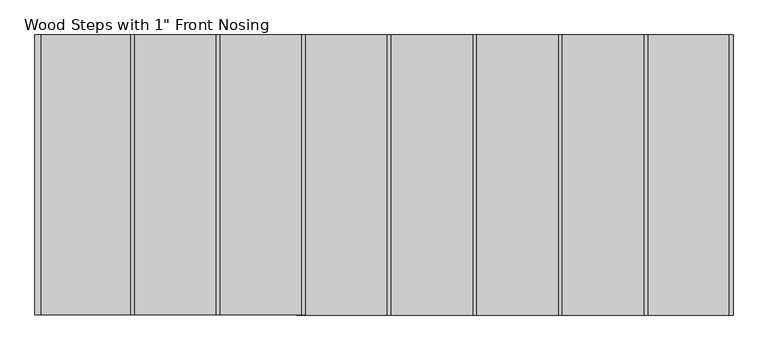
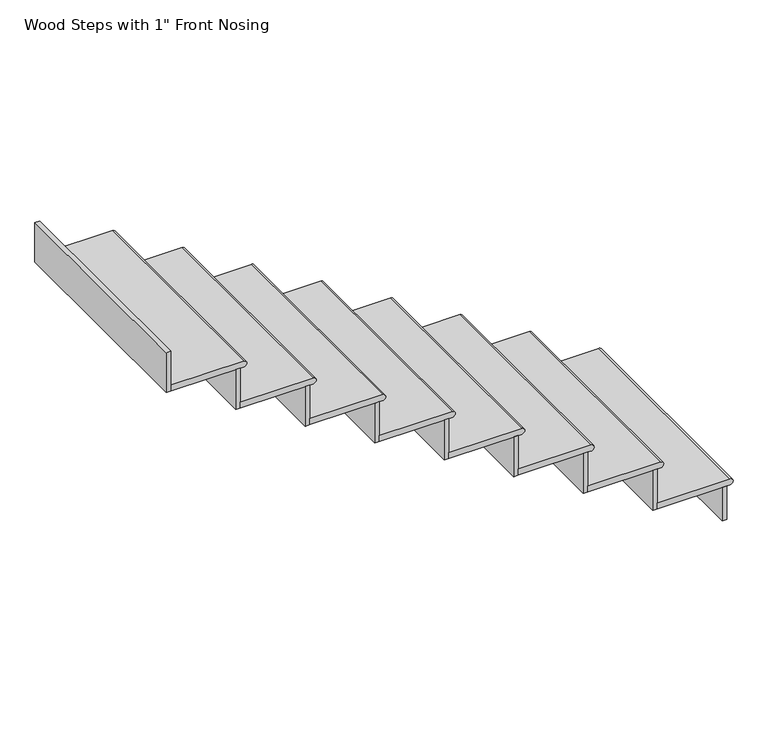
"""IFC4 building model written with IfcOpenShell, lengths in millimetres: stair flight geometry."""

from ifc_helpers import new_model, si_unit, frame, origin, place, context, project, spatial, circle_curve, faceted_brep, source, transform, mapped, element, save
from ifc_brep_helpers import plane_surface, cylinder_surface, advanced_brep


def stair_flight_912a77d6(model_context):
    return source(origin(), model_context, "Body", "SolidModel", [
        advanced_brep(
        [(10556.583999, -2157.718869, 143.9333333), (10556.583999, -2157.718869, 169.3333333), (10556.583999, -3072.118869, 169.3333333), (10556.583999, -3072.118869, 143.9333333), (10264.483999, -3072.118869, 169.3333333), (10264.483999, -2157.718869, 169.3333333), (10264.483999, -3072.118869, 143.9333333), (10264.483999, -2157.718869, 143.9333333)],
        [
            (0, 1, circle_curve(frame((10556.583999, -2157.718869, 156.6333333), z_axis=(0.0, -1.0, 0.0), x_axis=(-1.0, 0.0, 0.0)), 12.7)),
            (1, 2),
            (2, 3, circle_curve(frame((10556.583999, -3072.118869, 156.6333333), z_axis=(0.0, 1.0, 0.0), x_axis=(-1.0, 0.0, 0.0)), 12.7)),
            (3, 0),
            (4, 2),
            (1, 5),
            (5, 4),
            (3, 6),
            (6, 7),
            (7, 0),
            (4, 6),
            (7, 5),
        ],
        [
            cylinder_surface(frame((10556.583999, -2157.718869, 156.6333333), z_axis=(0.0, 1.0, 0.0), x_axis=(-1.0, 0.0, 0.0)), 12.7),
            plane_surface(frame((10569.283999, -3072.118869, 169.3333333), z_axis=(0.0, 0.0, 1.0), x_axis=(1.0, 0.0, 0.0))),
            plane_surface(frame((10569.283999, -3072.118869, 143.9333333), z_axis=(0.0, 0.0, -1.0), x_axis=(-1.0, 0.0, 0.0))),
            plane_surface(frame((10264.483999, -3072.118869, 169.3333333), z_axis=(0.0, -1.0, 0.0), x_axis=(0.0, 0.0, -1.0))),
            plane_surface(frame((10556.583999, -2157.718869, 169.3333333), z_axis=(0.0, 1.0, 0.0), x_axis=(0.0, 0.0, -1.0))),
            plane_surface(frame((10264.483999, -2157.718869, 169.3333333), z_axis=(-1.0, 0.0, 0.0), x_axis=(0.0, 0.0, -1.0))),
        ],
        [
            (0, [[1, 2, 3, 4]]),
            (1, [[5, -2, 6, 7]]),
            (2, [[8, 9, 10, -4]]),
            (3, [[-5, 11, -8, -3]]),
            (4, [[-6, -1, -10, 12]]),
            (5, [[-7, -12, -9, -11]]),
        ],
    ),
        faceted_brep([(10543.883999, -2157.718869, 143.9333333), (10543.883999, -2157.718869, 0.0), (10524.833999, -2157.718869, 0.0), (10524.833999, -2157.718869, 143.9333333), (10543.883999, -3072.118869, 143.9333333), (10524.833999, -3072.118869, 143.9333333), (10524.833999, -3072.118869, 0.0), (10543.883999, -3072.118869, 0.0)], [[[0, 1, 2, 3]], [[4, 5, 6, 7]], [[1, 0, 4, 7]], [[2, 1, 7, 6]], [[3, 2, 6, 5]], [[0, 3, 5, 4]]]),
        faceted_brep([(10264.483999, -2157.718869, 313.2666667), (10264.483999, -2157.718869, 143.9333333), (10245.433999, -2157.718869, 143.9333333), (10245.433999, -2157.718869, 313.2666667), (10264.483999, -3072.118869, 313.2666667), (10245.433999, -3072.118869, 313.2666667), (10245.433999, -3072.118869, 143.9333333), (10264.483999, -3072.118869, 143.9333333)], [[[0, 1, 2, 3]], [[4, 5, 6, 7]], [[1, 0, 4, 7]], [[2, 1, 7, 6]], [[3, 2, 6, 5]], [[0, 3, 5, 4]]]),
        advanced_brep(
        [(9985.083999, -3072.118869, 338.6666667), (10277.183999, -3072.118869, 338.6666667), (10277.183999, -2157.718869, 338.6666667), (9985.083999, -2157.718869, 338.6666667), (10277.183999, -3072.118869, 313.2666667), (9985.083999, -3072.118869, 313.2666667), (9985.083999, -2157.718869, 313.2666667), (10277.183999, -2157.718869, 313.2666667)],
        [
            (0, 1),
            (1, 2),
            (2, 3),
            (3, 0),
            (4, 5),
            (5, 6),
            (6, 7),
            (7, 4),
            (0, 5),
            (4, 1, circle_curve(frame((10277.183999, -3072.118869, 325.9666667), z_axis=(0.0, -1.0, 0.0), x_axis=(-1.0, 0.0, 0.0)), 12.7)),
            (2, 7, circle_curve(frame((10277.183999, -2157.718869, 325.9666667), z_axis=(0.0, 1.0, 0.0), x_axis=(-1.0, 0.0, 0.0)), 12.7)),
            (6, 3),
        ],
        [
            plane_surface(frame((10569.283999, -3072.118869, 338.6666667), z_axis=(0.0, 0.0, 1.0), x_axis=(1.0, 0.0, 0.0))),
            plane_surface(frame((10569.283999, -3072.118869, 313.2666667), z_axis=(0.0, 0.0, -1.0), x_axis=(-1.0, 0.0, 0.0))),
            plane_surface(frame((9985.083999, -3072.118869, 338.6666667), z_axis=(0.0, -1.0, 0.0), x_axis=(0.0, 0.0, -1.0))),
            plane_surface(frame((10277.183999, -2157.718869, 338.6666667), z_axis=(0.0, 1.0, 0.0), x_axis=(0.0, 0.0, -1.0))),
            plane_surface(frame((9985.083999, -2157.718869, 338.6666667), z_axis=(-1.0, 0.0, 0.0), x_axis=(0.0, 0.0, -1.0))),
            cylinder_surface(frame((10277.183999, -2157.718869, 325.9666667), z_axis=(0.0, 1.0, 0.0), x_axis=(-1.0, 0.0, 0.0)), 12.7),
        ],
        [
            (0, [[1, 2, 3, 4]]),
            (1, [[5, 6, 7, 8]]),
            (2, [[-1, 9, -5, 10]]),
            (3, [[-3, 11, -7, 12]]),
            (4, [[-4, -12, -6, -9]]),
            (5, [[-11, -2, -10, -8]]),
        ],
    ),
        faceted_brep([(9985.083999, -2157.718869, 482.6), (9985.083999, -2157.718869, 313.2666667), (9966.033999, -2157.718869, 313.2666667), (9966.033999, -2157.718869, 482.6), (9985.083999, -3072.118869, 482.6), (9966.033999, -3072.118869, 482.6), (9966.033999, -3072.118869, 313.2666667), (9985.083999, -3072.118869, 313.2666667)], [[[0, 1, 2, 3]], [[4, 5, 6, 7]], [[1, 0, 4, 7]], [[2, 1, 7, 6]], [[3, 2, 6, 5]], [[0, 3, 5, 4]]]),
        advanced_brep(
        [(9705.683999, -3072.118869, 508.0), (9997.783999, -3072.118869, 508.0), (9997.783999, -2157.718869, 508.0), (9705.683999, -2157.718869, 508.0), (9997.783999, -3072.118869, 482.6), (9705.683999, -3072.118869, 482.6), (9705.683999, -2157.718869, 482.6), (9997.783999, -2157.718869, 482.6)],
        [
            (0, 1),
            (1, 2),
            (2, 3),
            (3, 0),
            (4, 5),
            (5, 6),
            (6, 7),
            (7, 4),
            (0, 5),
            (4, 1, circle_curve(frame((9997.783999, -3072.118869, 495.3), z_axis=(0.0, -1.0, 0.0), x_axis=(-1.0, 0.0, 0.0)), 12.7)),
            (2, 7, circle_curve(frame((9997.783999, -2157.718869, 495.3), z_axis=(0.0, 1.0, 0.0), x_axis=(-1.0, 0.0, 0.0)), 12.7)),
            (6, 3),
        ],
        [
            plane_surface(frame((10289.883999, -3072.118869, 508.0), z_axis=(0.0, 0.0, 1.0), x_axis=(1.0, 0.0, 0.0))),
            plane_surface(frame((10289.883999, -3072.118869, 482.6), z_axis=(0.0, 0.0, -1.0), x_axis=(-1.0, 0.0, 0.0))),
            plane_surface(frame((9705.683999, -3072.118869, 508.0), z_axis=(0.0, -1.0, 0.0), x_axis=(0.0, 0.0, -1.0))),
            plane_surface(frame((9997.783999, -2157.718869, 508.0), z_axis=(0.0, 1.0, 0.0), x_axis=(0.0, 0.0, -1.0))),
            plane_surface(frame((9705.683999, -2157.718869, 508.0), z_axis=(-1.0, 0.0, 0.0), x_axis=(0.0, 0.0, -1.0))),
            cylinder_surface(frame((9997.783999, -2157.718869, 495.3), z_axis=(0.0, 1.0, 0.0), x_axis=(-1.0, 0.0, 0.0)), 12.7),
        ],
        [
            (0, [[1, 2, 3, 4]]),
            (1, [[5, 6, 7, 8]]),
            (2, [[-1, 9, -5, 10]]),
            (3, [[-3, 11, -7, 12]]),
            (4, [[-4, -12, -6, -9]]),
            (5, [[-11, -2, -10, -8]]),
        ],
    ),
        faceted_brep([(9705.683999, -2157.718869, 651.9333333), (9705.683999, -2157.718869, 482.6), (9686.633999, -2157.718869, 482.6), (9686.633999, -2157.718869, 651.9333333), (9705.683999, -3072.118869, 651.9333333), (9686.633999, -3072.118869, 651.9333333), (9686.633999, -3072.118869, 482.6), (9705.683999, -3072.118869, 482.6)], [[[0, 1, 2, 3]], [[4, 5, 6, 7]], [[1, 0, 4, 7]], [[2, 1, 7, 6]], [[3, 2, 6, 5]], [[0, 3, 5, 4]]]),
        advanced_brep(
        [(9426.283999, -3072.118869, 677.3333333), (9718.383999, -3072.118869, 677.3333333), (9718.383999, -2157.718869, 677.3333333), (9426.283999, -2157.718869, 677.3333333), (9718.383999, -3072.118869, 651.9333333), (9426.283999, -3072.118869, 651.9333333), (9426.283999, -2157.718869, 651.9333333), (9718.383999, -2157.718869, 651.9333333)],
        [
            (0, 1),
            (1, 2),
            (2, 3),
            (3, 0),
            (4, 5),
            (5, 6),
            (6, 7),
            (7, 4),
            (0, 5),
            (4, 1, circle_curve(frame((9718.383999, -3072.118869, 664.6333333), z_axis=(0.0, -1.0, 0.0), x_axis=(-1.0, 0.0, 0.0)), 12.7)),
            (2, 7, circle_curve(frame((9718.383999, -2157.718869, 664.6333333), z_axis=(0.0, 1.0, 0.0), x_axis=(-1.0, 0.0, 0.0)), 12.7)),
            (6, 3),
        ],
        [
            plane_surface(frame((10010.483999, -3072.118869, 677.3333333), z_axis=(0.0, 0.0, 1.0), x_axis=(1.0, 0.0, 0.0))),
            plane_surface(frame((10010.483999, -3072.118869, 651.9333333), z_axis=(0.0, 0.0, -1.0), x_axis=(-1.0, 0.0, 0.0))),
            plane_surface(frame((9426.283999, -3072.118869, 677.3333333), z_axis=(0.0, -1.0, 0.0), x_axis=(0.0, 0.0, -1.0))),
            plane_surface(frame((9718.383999, -2157.718869, 677.3333333), z_axis=(0.0, 1.0, 0.0), x_axis=(0.0, 0.0, -1.0))),
            plane_surface(frame((9426.283999, -2157.718869, 677.3333333), z_axis=(-1.0, 0.0, 0.0), x_axis=(0.0, 0.0, -1.0))),
            cylinder_surface(frame((9718.383999, -2157.718869, 664.6333333), z_axis=(0.0, 1.0, 0.0), x_axis=(-1.0, 0.0, 0.0)), 12.7),
        ],
        [
            (0, [[1, 2, 3, 4]]),
            (1, [[5, 6, 7, 8]]),
            (2, [[-1, 9, -5, 10]]),
            (3, [[-3, 11, -7, 12]]),
            (4, [[-4, -12, -6, -9]]),
            (5, [[-11, -2, -10, -8]]),
        ],
    ),
        faceted_brep([(9426.283999, -2157.718869, 821.2666667), (9426.283999, -2157.718869, 651.9333333), (9407.233999, -2157.718869, 651.9333333), (9407.233999, -2157.718869, 821.2666667), (9426.283999, -3072.118869, 821.2666667), (9407.233999, -3072.118869, 821.2666667), (9407.233999, -3072.118869, 651.9333333), (9426.283999, -3072.118869, 651.9333333)], [[[0, 1, 2, 3]], [[4, 5, 6, 7]], [[1, 0, 4, 7]], [[2, 1, 7, 6]], [[3, 2, 6, 5]], [[0, 3, 5, 4]]]),
        advanced_brep(
        [(9146.883999, -3072.118869, 846.6666667), (9438.983999, -3072.118869, 846.6666667), (9438.983999, -2157.718869, 846.6666667), (9146.883999, -2157.718869, 846.6666667), (9438.983999, -3072.118869, 821.2666667), (9146.883999, -3072.118869, 821.2666667), (9146.883999, -2157.718869, 821.2666667), (9438.983999, -2157.718869, 821.2666667)],
        [
            (0, 1),
            (1, 2),
            (2, 3),
            (3, 0),
            (4, 5),
            (5, 6),
            (6, 7),
            (7, 4),
            (0, 5),
            (4, 1, circle_curve(frame((9438.983999, -3072.118869, 833.9666667), z_axis=(0.0, -1.0, 0.0), x_axis=(-1.0, 0.0, 0.0)), 12.7)),
            (2, 7, circle_curve(frame((9438.983999, -2157.718869, 833.9666667), z_axis=(0.0, 1.0, 0.0), x_axis=(-1.0, 0.0, 0.0)), 12.7)),
            (6, 3),
        ],
        [
            plane_surface(frame((9731.083999, -3072.118869, 846.6666667), z_axis=(0.0, 0.0, 1.0), x_axis=(1.0, 0.0, 0.0))),
            plane_surface(frame((9731.083999, -3072.118869, 821.2666667), z_axis=(0.0, 0.0, -1.0), x_axis=(-1.0, 0.0, 0.0))),
            plane_surface(frame((9146.883999, -3072.118869, 846.6666667), z_axis=(0.0, -1.0, 0.0), x_axis=(0.0, 0.0, -1.0))),
            plane_surface(frame((9438.983999, -2157.718869, 846.6666667), z_axis=(0.0, 1.0, 0.0), x_axis=(0.0, 0.0, -1.0))),
            plane_surface(frame((9146.883999, -2157.718869, 846.6666667), z_axis=(-1.0, 0.0, 0.0), x_axis=(0.0, 0.0, -1.0))),
            cylinder_surface(frame((9438.983999, -2157.718869, 833.9666667), z_axis=(0.0, 1.0, 0.0), x_axis=(-1.0, 0.0, 0.0)), 12.7),
        ],
        [
            (0, [[1, 2, 3, 4]]),
            (1, [[5, 6, 7, 8]]),
            (2, [[-1, 9, -5, 10]]),
            (3, [[-3, 11, -7, 12]]),
            (4, [[-4, -12, -6, -9]]),
            (5, [[-11, -2, -10, -8]]),
        ],
    ),
        faceted_brep([(9146.883999, -2157.718869, 990.6), (9146.883999, -2157.718869, 821.2666667), (9127.833999, -2157.718869, 821.2666667), (9127.833999, -2157.718869, 990.6), (9146.883999, -3072.118869, 990.6), (9127.833999, -3072.118869, 990.6), (9127.833999, -3072.118869, 821.2666667), (9146.883999, -3072.118869, 821.2666667)], [[[0, 1, 2, 3]], [[4, 5, 6, 7]], [[1, 0, 4, 7]], [[2, 1, 7, 6]], [[3, 2, 6, 5]], [[0, 3, 5, 4]]]),
        advanced_brep(
        [(8867.483999, -3072.118869, 1016.0), (9159.583999, -3072.118869, 1016.0), (9159.583999, -2157.718869, 1016.0), (8867.483999, -2157.718869, 1016.0), (9159.583999, -3072.118869, 990.6), (8867.483999, -3072.118869, 990.6), (8867.483999, -2157.718869, 990.6), (9159.583999, -2157.718869, 990.6)],
        [
            (0, 1),
            (1, 2),
            (2, 3),
            (3, 0),
            (4, 5),
            (5, 6),
            (6, 7),
            (7, 4),
            (0, 5),
            (4, 1, circle_curve(frame((9159.583999, -3072.118869, 1003.3), z_axis=(0.0, -1.0, 0.0), x_axis=(-1.0, 0.0, 0.0)), 12.7)),
            (2, 7, circle_curve(frame((9159.583999, -2157.718869, 1003.3), z_axis=(0.0, 1.0, 0.0), x_axis=(-1.0, 0.0, 0.0)), 12.7)),
            (6, 3),
        ],
        [
            plane_surface(frame((9451.683999, -3072.118869, 1016.0), z_axis=(0.0, 0.0, 1.0), x_axis=(1.0, 0.0, 0.0))),
            plane_surface(frame((9451.683999, -3072.118869, 990.6), z_axis=(0.0, 0.0, -1.0), x_axis=(-1.0, 0.0, 0.0))),
            plane_surface(frame((8867.483999, -3072.118869, 1016.0), z_axis=(0.0, -1.0, 0.0), x_axis=(0.0, 0.0, -1.0))),
            plane_surface(frame((9159.583999, -2157.718869, 1016.0), z_axis=(0.0, 1.0, 0.0), x_axis=(0.0, 0.0, -1.0))),
            plane_surface(frame((8867.483999, -2157.718869, 1016.0), z_axis=(-1.0, 0.0, 0.0), x_axis=(0.0, 0.0, -1.0))),
            cylinder_surface(frame((9159.583999, -2157.718869, 1003.3), z_axis=(0.0, 1.0, 0.0), x_axis=(-1.0, 0.0, 0.0)), 12.7),
        ],
        [
            (0, [[1, 2, 3, 4]]),
            (1, [[5, 6, 7, 8]]),
            (2, [[-1, 9, -5, 10]]),
            (3, [[-3, 11, -7, 12]]),
            (4, [[-4, -12, -6, -9]]),
            (5, [[-11, -2, -10, -8]]),
        ],
    ),
        faceted_brep([(8867.483999, -2157.718869, 1159.9333333), (8867.483999, -2157.718869, 990.6), (8848.433999, -2157.718869, 990.6), (8848.433999, -2157.718869, 1159.9333333), (8867.483999, -3072.118869, 1159.9333333), (8848.433999, -3072.118869, 1159.9333333), (8848.433999, -3072.118869, 990.6), (8867.483999, -3072.118869, 990.6)], [[[0, 1, 2, 3]], [[4, 5, 6, 7]], [[1, 0, 4, 7]], [[2, 1, 7, 6]], [[3, 2, 6, 5]], [[0, 3, 5, 4]]]),
        advanced_brep(
        [(8588.083999, -3072.118869, 1185.3333333), (8880.183999, -3072.118869, 1185.3333333), (8880.183999, -2157.718869, 1185.3333333), (8588.083999, -2157.718869, 1185.3333333), (8880.183999, -3072.118869, 1159.9333333), (8588.083999, -3072.118869, 1159.9333333), (8588.083999, -2157.718869, 1159.9333333), (8880.183999, -2157.718869, 1159.9333333)],
        [
            (0, 1),
            (1, 2),
            (2, 3),
            (3, 0),
            (4, 5),
            (5, 6),
            (6, 7),
            (7, 4),
            (0, 5),
            (4, 1, circle_curve(frame((8880.183999, -3072.118869, 1172.6333333), z_axis=(0.0, -1.0, 0.0), x_axis=(-1.0, 0.0, 0.0)), 12.7)),
            (2, 7, circle_curve(frame((8880.183999, -2157.718869, 1172.6333333), z_axis=(0.0, 1.0, 0.0), x_axis=(-1.0, 0.0, 0.0)), 12.7)),
            (6, 3),
        ],
        [
            plane_surface(frame((9172.283999, -3072.118869, 1185.3333333), z_axis=(0.0, 0.0, 1.0), x_axis=(1.0, 0.0, 0.0))),
            plane_surface(frame((9172.283999, -3072.118869, 1159.9333333), z_axis=(0.0, 0.0, -1.0), x_axis=(-1.0, 0.0, 0.0))),
            plane_surface(frame((8588.083999, -3072.118869, 1185.3333333), z_axis=(0.0, -1.0, 0.0), x_axis=(0.0, 0.0, -1.0))),
            plane_surface(frame((8880.183999, -2157.718869, 1185.3333333), z_axis=(0.0, 1.0, 0.0), x_axis=(0.0, 0.0, -1.0))),
            plane_surface(frame((8588.083999, -2157.718869, 1185.3333333), z_axis=(-1.0, 0.0, 0.0), x_axis=(0.0, 0.0, -1.0))),
            cylinder_surface(frame((8880.183999, -2157.718869, 1172.6333333), z_axis=(0.0, 1.0, 0.0), x_axis=(-1.0, 0.0, 0.0)), 12.7),
        ],
        [
            (0, [[1, 2, 3, 4]]),
            (1, [[5, 6, 7, 8]]),
            (2, [[-1, 9, -5, 10]]),
            (3, [[-3, 11, -7, 12]]),
            (4, [[-4, -12, -6, -9]]),
            (5, [[-11, -2, -10, -8]]),
        ],
    ),
        faceted_brep([(8308.683999, -2157.718869, 1498.6), (8308.683999, -2157.718869, 1329.2666667), (8289.633999, -2157.718869, 1329.2666667), (8289.633999, -2157.718869, 1498.6), (8308.683999, -3072.118869, 1498.6), (8289.633999, -3072.118869, 1498.6), (8289.633999, -3072.118869, 1329.2666667), (8308.683999, -3072.118869, 1329.2666667)], [[[0, 1, 2, 3]], [[4, 5, 6, 7]], [[1, 0, 4, 7]], [[2, 1, 7, 6]], [[3, 2, 6, 5]], [[0, 3, 5, 4]]]),
        faceted_brep([(8588.083999, -2157.718869, 1329.2666667), (8588.083999, -2157.718869, 1159.9333333), (8569.033999, -2157.718869, 1159.9333333), (8569.033999, -2157.718869, 1329.2666667), (8588.083999, -3072.118869, 1329.2666667), (8569.033999, -3072.118869, 1329.2666667), (8569.033999, -3072.118869, 1159.9333333), (8588.083999, -3072.118869, 1159.9333333)], [[[0, 1, 2, 3]], [[4, 5, 6, 7]], [[1, 0, 4, 7]], [[2, 1, 7, 6]], [[3, 2, 6, 5]], [[0, 3, 5, 4]]]),
        advanced_brep(
        [(8308.683999, -3072.118869, 1354.6666667), (8600.783999, -3072.118869, 1354.6666667), (8600.783999, -2157.718869, 1354.6666667), (8334.083999, -2157.718869, 1354.6666667), (8308.683999, -2157.718869, 1354.6666667), (8600.783999, -3072.118869, 1329.2666667), (8308.683999, -3072.118869, 1329.2666667), (8308.683999, -2157.718869, 1329.2666667), (8334.083999, -2157.718869, 1329.2666667), (8600.783999, -2157.718869, 1329.2666667)],
        [
            (0, 1),
            (1, 2),
            (2, 3),
            (3, 4),
            (4, 0),
            (5, 6),
            (6, 7),
            (7, 8),
            (8, 9),
            (9, 5),
            (0, 6),
            (5, 1, circle_curve(frame((8600.783999, -3072.118869, 1341.9666667), z_axis=(0.0, -1.0, 0.0), x_axis=(-1.0, 0.0, 0.0)), 12.7)),
            (2, 9, circle_curve(frame((8600.783999, -2157.718869, 1341.9666667), z_axis=(0.0, 1.0, 0.0), x_axis=(-1.0, 0.0, 0.0)), 12.7)),
            (8, 3),
            (7, 4),
        ],
        [
            plane_surface(frame((10569.283999, -3072.118869, 1354.6666667), z_axis=(0.0, 0.0, 1.0), x_axis=(1.0, 0.0, 0.0))),
            plane_surface(frame((10569.283999, -3072.118869, 1329.2666667), z_axis=(0.0, 0.0, -1.0), x_axis=(-1.0, 0.0, 0.0))),
            plane_surface(frame((8308.683999, -3072.118869, 1354.6666667), z_axis=(0.0, -1.0, 0.0), x_axis=(0.0, 0.0, -1.0))),
            plane_surface(frame((8600.783999, -2157.718869, 1354.6666667), z_axis=(0.0, 1.0, 0.0), x_axis=(0.0, 0.0, -1.0))),
            plane_surface(frame((8334.083999, -2157.718869, 1354.6666667), z_axis=(0.0, 1.0, 0.0), x_axis=(0.0, 0.0, -1.0))),
            plane_surface(frame((8308.683999, -2157.718869, 1354.6666667), z_axis=(-1.0, 0.0, 0.0), x_axis=(0.0, 0.0, -1.0))),
            cylinder_surface(frame((8600.783999, -2157.718869, 1341.9666667), z_axis=(0.0, 1.0, 0.0), x_axis=(-1.0, 0.0, 0.0)), 12.7),
        ],
        [
            (0, [[1, 2, 3, 4, 5]]),
            (1, [[6, 7, 8, 9, 10]]),
            (2, [[-1, 11, -6, 12]]),
            (3, [[-3, 13, -9, 14]]),
            (4, [[-4, -14, -8, 15]]),
            (5, [[-5, -15, -7, -11]]),
            (6, [[-13, -2, -12, -10]]),
        ],
    ),
    ])


if __name__ == "__main__":
    model = new_model("IFC4")
    model_context = context("Model", 3, world=origin())
    ifc_project = project(units=[si_unit("LENGTHUNIT", "METRE", prefix="MILLI")], contexts=[model_context])
    site = spatial("IfcSite", under=ifc_project)
    building = spatial("IfcBuilding", under=site)
    placement = place(None, origin())
    stair_flight_shape = stair_flight_912a77d6(model_context)
    element("IfcStairFlight", 1, ObjectType="Wood Steps with 1\" Front Nosing", at=placement, inside=building, context=model_context, shape_type="MappedRepresentation", body=[
        mapped(stair_flight_shape, transform((0.0, 0.0, 0.0), x_axis=(1.0, 0.0, 0.0), y_axis=(0.0, 1.0, 0.0), z_axis=(0.0, 0.0, 1.0))),
    ])
    save(model, "model.ifc")
